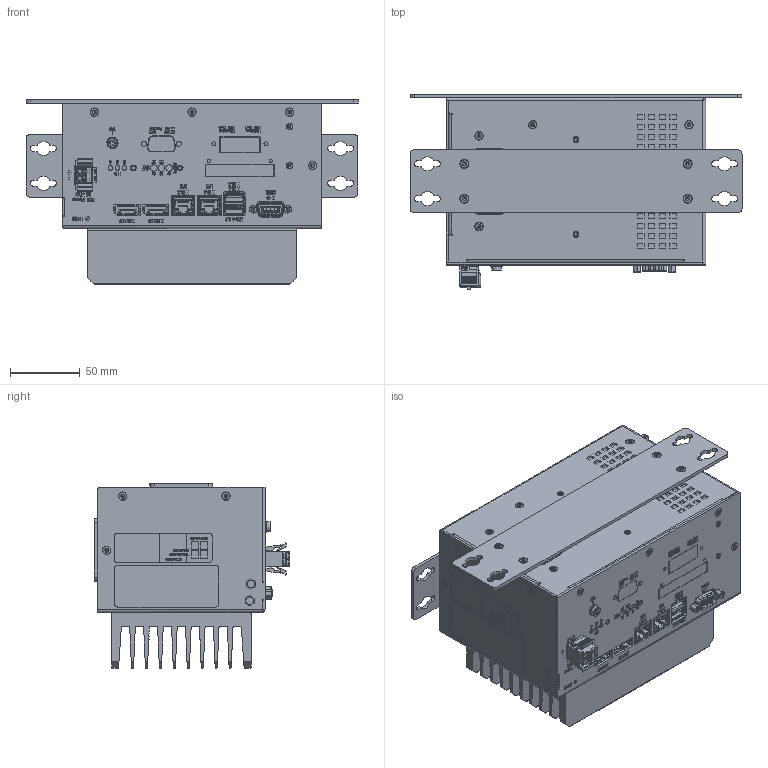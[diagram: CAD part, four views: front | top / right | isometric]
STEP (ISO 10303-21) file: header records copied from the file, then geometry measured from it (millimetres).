
FILE_DESCRIPTION(/* description */ (''),/* implementation_level */ '2;1');
FILE_NAME(/* name */ '778-35995-00_CAD_001_00_ipt.stp',/* time_stamp */ '2026-08-28T15:03:03+02:00',/* author */ ('Blessing'),/* organization */ ('TRsystems GmbH'),/* preprocessor_version */ 'ST-DEVELOPER v20',/* originating_system */ 'Autodesk Inventor 2024',/* authorisation */ '');
FILE_SCHEMA (('CONFIG_CONTROL_DESIGN'));
Products named in the file (1): 778-35995-00_001
Bounding box: 238 x 140.3 x 132.5 mm (x, y, z)
Volume: 2347549.8 mm3; surface area: 238580 mm2
Topology: 5 solids, 33 shells, 11358 faces, 32512 edges, 21271 vertices
Faces by surface type: plane 7364, cylinder 2051, bspline 1645, cone 235, torus 35, sphere 28
Full cylindrical faces by diameter (mm): 0.4 x10, 0.434 x1, 0.457 x1, 0.5 x26, 0.6 x16, 0.65 x2, 0.7 x2, 0.8 x20, 0.9 x2, 1.4 x2, 2 x2, 2.156 x2, 2.3 x2, 2.4 x2, 2.459 x2, 2.7 x1, 2.8 x4, 3.3 x3, 3.5 x2, 3.8 x2, 4 x4, 4.22 x2, 4.3 x3, 4.7 x3, 5.4 x3, 5.54 x24, 7 x1
Entity records: 414883 total; most frequent: CARTESIAN_POINT 115393, ORIENTED_EDGE 64027, DIRECTION 52240, EDGE_CURVE 32472, LINE 23992, VECTOR 23992, VERTEX_POINT 21271, AXIS2_PLACEMENT_3D 14124
